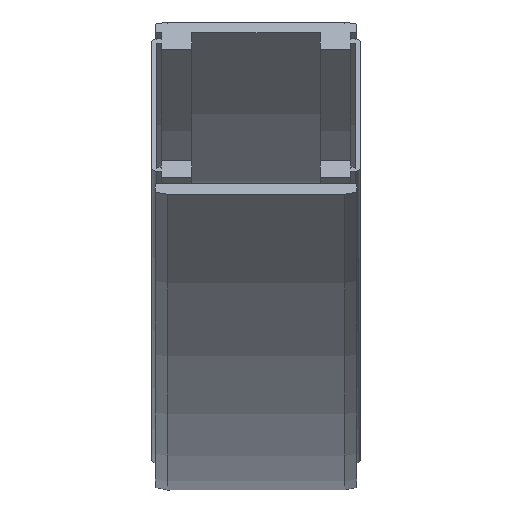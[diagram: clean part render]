
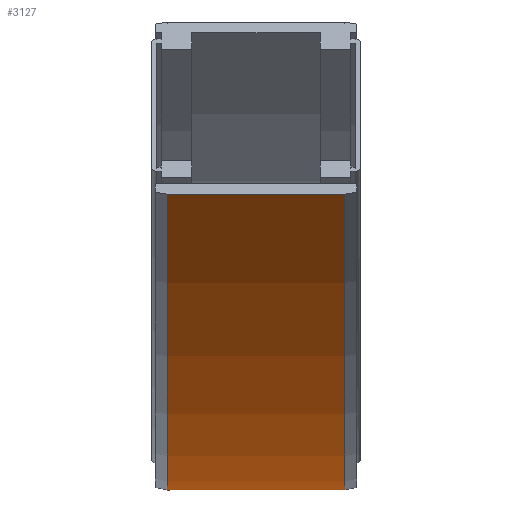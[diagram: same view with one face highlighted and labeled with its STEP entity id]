
A CAD part, top view. The second image highlights one B-rep face of the part: STEP entity #3127.
In plain terms, the highlighted cylindrical face has radius 902.5 mm (diameter 1805 mm), a partial arc.
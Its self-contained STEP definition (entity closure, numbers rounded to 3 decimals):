
#3069=CARTESIAN_POINT('',(-36.5,-11.,0.));
#3070=VERTEX_POINT('',#3069);
#3077=CARTESIAN_POINT('',(-36.5,109.912,451.25));
#3078=VERTEX_POINT('',#3077);
#3079=CARTESIAN_POINT('',(-36.5,891.5,0.));
#3080=DIRECTION('',(1.0,0.0,0.0));
#3081=DIRECTION('',(0.0,-0.866,0.5));
#3082=AXIS2_PLACEMENT_3D('',#3079,#3080,#3081);
#3083=CIRCLE('',#3082,902.5);
#3084=EDGE_CURVE('',#3078,#3070,#3083,.T.);
#3096=CARTESIAN_POINT('',(0.,891.5,0.));
#3097=DIRECTION('',(1.0,0.0,0.0));
#3098=DIRECTION('',(0.0,-0.866,0.5));
#3099=AXIS2_PLACEMENT_3D('',#3096,#3097,#3098);
#3100=CYLINDRICAL_SURFACE('',#3099,902.5);
#3101=CARTESIAN_POINT('',(36.5,-11.,0.));
#3102=VERTEX_POINT('',#3101);
#3103=CARTESIAN_POINT('',(-36.5,-11.,0.));
#3104=DIRECTION('',(1.0,0.0,0.0));
#3105=VECTOR('',#3104,73.);
#3106=LINE('',#3103,#3105);
#3107=EDGE_CURVE('',#3070,#3102,#3106,.T.);
#3108=ORIENTED_EDGE('',*,*,#3107,.T.);
#3109=CARTESIAN_POINT('',(36.5,109.912,451.25));
#3110=VERTEX_POINT('',#3109);
#3111=CARTESIAN_POINT('',(36.5,891.5,0.));
#3112=DIRECTION('',(1.,0.0,0.0));
#3113=DIRECTION('',(0.0,-0.866,0.5));
#3114=AXIS2_PLACEMENT_3D('',#3111,#3112,#3113);
#3115=CIRCLE('',#3114,902.5);
#3116=EDGE_CURVE('',#3110,#3102,#3115,.T.);
#3117=ORIENTED_EDGE('',*,*,#3116,.F.);
#3118=CARTESIAN_POINT('',(-36.5,109.912,451.25));
#3119=DIRECTION('',(1.0,0.0,0.0));
#3120=VECTOR('',#3119,73.);
#3121=LINE('',#3118,#3120);
#3122=EDGE_CURVE('',#3078,#3110,#3121,.T.);
#3123=ORIENTED_EDGE('',*,*,#3122,.F.);
#3124=ORIENTED_EDGE('',*,*,#3084,.T.);
#3125=EDGE_LOOP('',(#3108,#3117,#3123,#3124));
#3126=FACE_OUTER_BOUND('',#3125,.T.);
#3127=ADVANCED_FACE('',(#3126),#3100,.T.);
